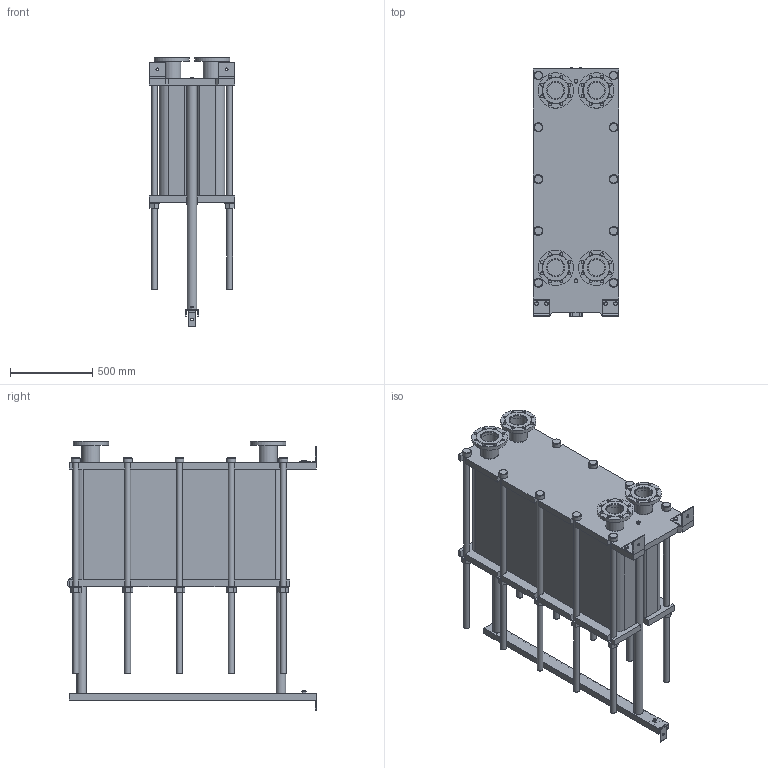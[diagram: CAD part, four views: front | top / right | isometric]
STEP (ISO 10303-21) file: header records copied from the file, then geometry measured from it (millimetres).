
FILE_DESCRIPTION(/* description */ (''),/* implementation_level */ '2;1');
FILE_NAME(/* name */ 'C:\Users\zhuro\Desktop\ENCO\TO\ЭН-04\ЭН-0,5-04-195-1.stp',/* time_stamp */ '2022-06-06T11:02:17+03:00',/* author */ ('zhuro'),/* organization */ (''),/* preprocessor_version */ 'ST-DEVELOPER v18.1',/* originating_system */ 'Autodesk Inventor 2022',/* authorisation */ '');
FILE_SCHEMA (('AUTOMOTIVE_DESIGN { 1 0 10303 214 3 1 1 }'));
Length unit declared in the file: millimetre
Products named in the file (1): ЭН-0,5-04-195-1
Bounding box: 520 x 1510 x 1637.5 mm (x, y, z)
Volume: 412530745 mm3; surface area: 10444320.9 mm2
Topology: 45 solids, 45 shells, 668 faces, 1611 edges, 1048 vertices
Faces by surface type: plane 457, cylinder 166, cone 39, torus 6
Full cylindrical faces by diameter (mm): 8 x4, 10 x2, 16 x8, 18 x35, 36 x25, 40 x2, 42 x1, 45 x4, 54 x10, 57 x2, 60 x10, 68 x2, 100 x4, 110 x8, 215 x4
Entity records: 23607 total; most frequent: CARTESIAN_POINT 7348, DIRECTION 3371, ORIENTED_EDGE 3142, EDGE_CURVE 1571, AXIS2_PLACEMENT_3D 1199, VERTEX_POINT 1044, LINE 973, VECTOR 973
